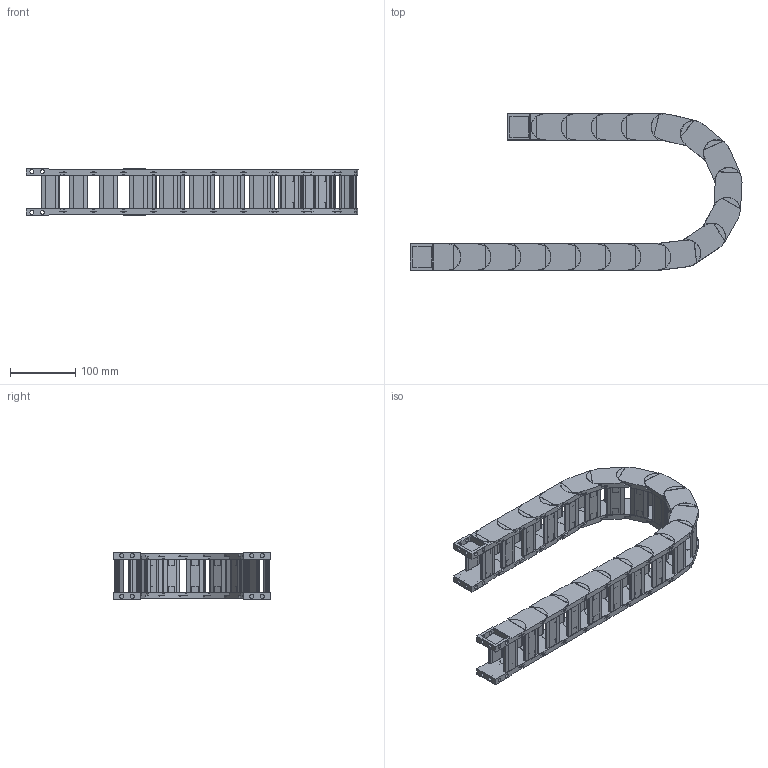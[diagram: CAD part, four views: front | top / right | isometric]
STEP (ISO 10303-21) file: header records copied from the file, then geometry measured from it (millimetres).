
FILE_DESCRIPTION((''),'2;1');
FILE_NAME('HD25-R100-ZPT_ASM','2022-09-04T16:28:41',('admin'),(''),'CREO PARAMETRIC BY PTC INC, 2021164','CREO PARAMETRIC BY PTC INC, 2021164','');
FILE_SCHEMA(('CONFIG_CONTROL_DESIGN','GEOMETRIC_VALIDATION_PROPERTIES_MIM'));
Length unit declared in the file: millimetre
Products named in the file (6): HD30; 25XL-QSYP-103; HD25_ASM; H25-T1; H25-T2; HD25-R100-ZPT_ASM
Assembly tree (24 placements, depth 3):
  HD25-R100-ZPT_ASM
    HD25_ASM  x18
      HD30
      25XL-QSYP-103
    H25-T1
    H25-T2
    25XL-QSYP-103  x2
Bounding box: 509.09 x 240.42 x 71.8 mm (x, y, z)
Volume: 898541.9 mm3; surface area: 488705.1 mm2
Topology: 80 solids, 116 shells, 2026 faces, 5131 edges, 3421 vertices
Faces by surface type: plane 1514, cylinder 440, torus 72
Entity records: 10757 total; most frequent: CARTESIAN_POINT 1526, DIRECTION 1472, ORIENTED_EDGE 1406, EDGE_CURVE 703, VECTOR 522, LINE 522, AXIS2_PLACEMENT_3D 475, VERTEX_POINT 469
